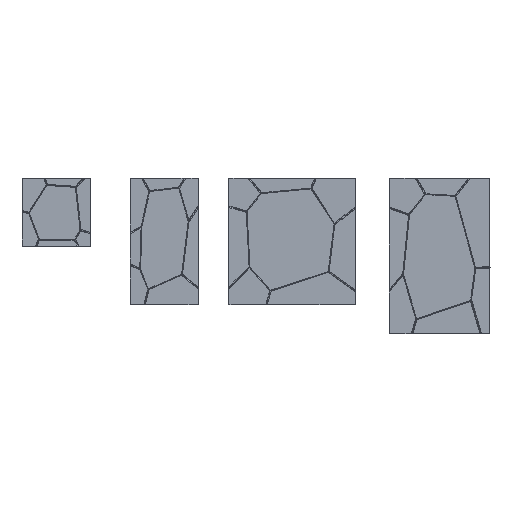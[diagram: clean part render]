
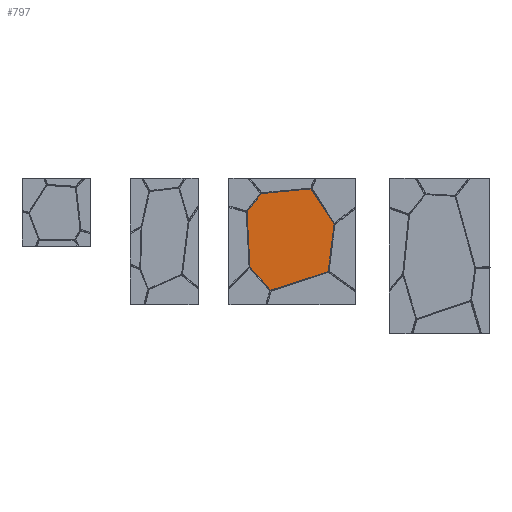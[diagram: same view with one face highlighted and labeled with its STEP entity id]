
A CAD part, top view. The second image highlights one B-rep face of the part: STEP entity #797.
In plain terms, the highlighted planar face has unit normal (0, 0, 1).
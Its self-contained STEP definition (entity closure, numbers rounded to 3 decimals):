
#797=ADVANCED_FACE('',(#1855),#15411,.T.);
#1855=FACE_OUTER_BOUND('',#2915,.T.);
#2915=EDGE_LOOP('',(#5967,#5968,#5969,#5970,#5971,#5972,#5973,#5974,#5975,
#5976,#5977,#5978,#5979,#5980));
#5967=ORIENTED_EDGE('',*,*,#9873,.F.);
#5968=ORIENTED_EDGE('',*,*,#9867,.F.);
#5969=ORIENTED_EDGE('',*,*,#9863,.F.);
#5970=ORIENTED_EDGE('',*,*,#9857,.F.);
#5971=ORIENTED_EDGE('',*,*,#9853,.F.);
#5972=ORIENTED_EDGE('',*,*,#9848,.F.);
#5973=ORIENTED_EDGE('',*,*,#9841,.F.);
#5974=ORIENTED_EDGE('',*,*,#9908,.F.);
#5975=ORIENTED_EDGE('',*,*,#9904,.F.);
#5976=ORIENTED_EDGE('',*,*,#9897,.F.);
#5977=ORIENTED_EDGE('',*,*,#9892,.F.);
#5978=ORIENTED_EDGE('',*,*,#9887,.F.);
#5979=ORIENTED_EDGE('',*,*,#9881,.F.);
#5980=ORIENTED_EDGE('',*,*,#9877,.F.);
#9841=EDGE_CURVE('',#14492,#14495,#13070,.T.);
#9848=EDGE_CURVE('',#14495,#14496,#11746,.T.);
#9853=EDGE_CURVE('',#14496,#14489,#13072,.T.);
#9857=EDGE_CURVE('',#14489,#14490,#11753,.T.);
#9863=EDGE_CURVE('',#14490,#14498,#13074,.T.);
#9867=EDGE_CURVE('',#14498,#14493,#11761,.T.);
#9873=EDGE_CURVE('',#14493,#14487,#13076,.T.);
#9877=EDGE_CURVE('',#14487,#14488,#11769,.T.);
#9881=EDGE_CURVE('',#14488,#14500,#13078,.T.);
#9887=EDGE_CURVE('',#14500,#14499,#11777,.T.);
#9892=EDGE_CURVE('',#14499,#14497,#13080,.T.);
#9897=EDGE_CURVE('',#14497,#14494,#11785,.T.);
#9904=EDGE_CURVE('',#14494,#14491,#13082,.T.);
#9908=EDGE_CURVE('',#14491,#14492,#11794,.T.);
#11746=B_SPLINE_CURVE_WITH_KNOTS('',1,(#32481,#32482),.UNSPECIFIED.,.F.,
 .F.,(2,2),(0.,637.981),.UNSPECIFIED.);
#11753=B_SPLINE_CURVE_WITH_KNOTS('',1,(#32501,#32502),.UNSPECIFIED.,.F.,
 .F.,(2,2),(0.,728.837),.UNSPECIFIED.);
#11761=B_SPLINE_CURVE_WITH_KNOTS('',1,(#32523,#32524),.UNSPECIFIED.,.F.,
 .F.,(2,2),(0.,921.964),.UNSPECIFIED.);
#11769=B_SPLINE_CURVE_WITH_KNOTS('',1,(#32545,#32546),.UNSPECIFIED.,.F.,
 .F.,(2,2),(0.,470.713),.UNSPECIFIED.);
#11777=B_SPLINE_CURVE_WITH_KNOTS('',1,(#32567,#32568),.UNSPECIFIED.,.F.,
 .F.,(2,2),(0.,843.255),.UNSPECIFIED.);
#11785=B_SPLINE_CURVE_WITH_KNOTS('',1,(#32589,#32590),.UNSPECIFIED.,.F.,
 .F.,(2,2),(0.,349.972),.UNSPECIFIED.);
#11794=B_SPLINE_CURVE_WITH_KNOTS('',1,(#32613,#32614),.UNSPECIFIED.,.F.,
 .F.,(2,2),(0.,761.432),.UNSPECIFIED.);
#13070=(
BOUNDED_CURVE()
B_SPLINE_CURVE(2,(#32465,#32466,#32467),.UNSPECIFIED.,.F.,.F.)
B_SPLINE_CURVE_WITH_KNOTS((3,3),(0.,9.781),.UNSPECIFIED.)
CURVE()
GEOMETRIC_REPRESENTATION_ITEM()
RATIONAL_B_SPLINE_CURVE((1.,0.856,1.))
REPRESENTATION_ITEM('')
);
#13072=(
BOUNDED_CURVE()
B_SPLINE_CURVE(2,(#32491,#32492,#32493),.UNSPECIFIED.,.F.,.F.)
B_SPLINE_CURVE_WITH_KNOTS((3,3),(0.,6.314),.UNSPECIFIED.)
CURVE()
GEOMETRIC_REPRESENTATION_ITEM()
RATIONAL_B_SPLINE_CURVE((1.,0.939,1.))
REPRESENTATION_ITEM('')
);
#13074=(
BOUNDED_CURVE()
B_SPLINE_CURVE(2,(#32513,#32514,#32515),.UNSPECIFIED.,.F.,.F.)
B_SPLINE_CURVE_WITH_KNOTS((3,3),(0.,10.195),.UNSPECIFIED.)
CURVE()
GEOMETRIC_REPRESENTATION_ITEM()
RATIONAL_B_SPLINE_CURVE((1.,0.844,1.))
REPRESENTATION_ITEM('')
);
#13076=(
BOUNDED_CURVE()
B_SPLINE_CURVE(2,(#32535,#32536,#32537),.UNSPECIFIED.,.F.,.F.)
B_SPLINE_CURVE_WITH_KNOTS((3,3),(0.,10.477),.UNSPECIFIED.)
CURVE()
GEOMETRIC_REPRESENTATION_ITEM()
RATIONAL_B_SPLINE_CURVE((1.,0.835,1.))
REPRESENTATION_ITEM('')
);
#13078=(
BOUNDED_CURVE()
B_SPLINE_CURVE(2,(#32553,#32554,#32555),.UNSPECIFIED.,.F.,.F.)
B_SPLINE_CURVE_WITH_KNOTS((3,3),(0.,6.012),.UNSPECIFIED.)
CURVE()
GEOMETRIC_REPRESENTATION_ITEM()
RATIONAL_B_SPLINE_CURVE((1.,0.945,1.))
REPRESENTATION_ITEM('')
);
#13080=(
BOUNDED_CURVE()
B_SPLINE_CURVE(2,(#32577,#32578,#32579),.UNSPECIFIED.,.F.,.F.)
B_SPLINE_CURVE_WITH_KNOTS((3,3),(0.,6.451),.UNSPECIFIED.)
CURVE()
GEOMETRIC_REPRESENTATION_ITEM()
RATIONAL_B_SPLINE_CURVE((1.,0.936,1.))
REPRESENTATION_ITEM('')
);
#13082=(
BOUNDED_CURVE()
B_SPLINE_CURVE(2,(#32603,#32604,#32605),.UNSPECIFIED.,.F.,.F.)
B_SPLINE_CURVE_WITH_KNOTS((3,3),(0.,7.319),
 .UNSPECIFIED.)
CURVE()
GEOMETRIC_REPRESENTATION_ITEM()
RATIONAL_B_SPLINE_CURVE((1.,0.918,1.))
REPRESENTATION_ITEM('')
);
#14487=VERTEX_POINT('',#32367);
#14488=VERTEX_POINT('',#32368);
#14489=VERTEX_POINT('',#32369);
#14490=VERTEX_POINT('',#32370);
#14491=VERTEX_POINT('',#32371);
#14492=VERTEX_POINT('',#32372);
#14493=VERTEX_POINT('',#32373);
#14494=VERTEX_POINT('',#32374);
#14495=VERTEX_POINT('',#32375);
#14496=VERTEX_POINT('',#32376);
#14497=VERTEX_POINT('',#32377);
#14498=VERTEX_POINT('',#32378);
#14499=VERTEX_POINT('',#32379);
#14500=VERTEX_POINT('',#32380);
#15411=PLANE('',#16488);
#16488=AXIS2_PLACEMENT_3D('',#32239,#16804,$);
#16804=DIRECTION('',(0.,0.,1.));
#32239=CARTESIAN_POINT('',(5248.597,-410.843,0.));
#32367=CARTESIAN_POINT('',(3831.12,-672.852,0.));
#32368=CARTESIAN_POINT('',(3520.329,-319.327,0.));
#32369=CARTESIAN_POINT('',(4813.388,340.417,0.));
#32370=CARTESIAN_POINT('',(4723.569,-382.864,0.));
#32371=CARTESIAN_POINT('',(3696.956,813.348,0.));
#32372=CARTESIAN_POINT('',(4455.026,884.816,0.));
#32373=CARTESIAN_POINT('',(3840.663,-675.468,0.));
#32374=CARTESIAN_POINT('',(3690.71,809.931,0.));
#32375=CARTESIAN_POINT('',(4463.409,880.773,0.));
#32376=CARTESIAN_POINT('',(4811.995,346.444,0.));
#32377=CARTESIAN_POINT('',(3475.154,534.22,0.));
#32378=CARTESIAN_POINT('',(4717.421,-390.313,0.));
#32379=CARTESIAN_POINT('',(3473.257,528.198,0.));
#32380=CARTESIAN_POINT('',(3518.101,-313.864,0.));
#32465=CARTESIAN_POINT('',(4455.026,884.816,0.));
#32466=CARTESIAN_POINT('',(4460.438,885.326,0.));
#32467=CARTESIAN_POINT('',(4463.409,880.773,0.));
#32481=CARTESIAN_POINT('',(4463.409,880.773,0.));
#32482=CARTESIAN_POINT('',(4811.995,346.444,0.));
#32491=CARTESIAN_POINT('',(4811.995,346.444,0.));
#32492=CARTESIAN_POINT('',(4813.794,343.686,0.));
#32493=CARTESIAN_POINT('',(4813.388,340.417,0.));
#32501=CARTESIAN_POINT('',(4813.388,340.417,0.));
#32502=CARTESIAN_POINT('',(4723.569,-382.864,0.));
#32513=CARTESIAN_POINT('',(4723.569,-382.864,0.));
#32514=CARTESIAN_POINT('',(4722.864,-388.543,0.));
#32515=CARTESIAN_POINT('',(4717.421,-390.313,0.));
#32523=CARTESIAN_POINT('',(4717.421,-390.313,0.));
#32524=CARTESIAN_POINT('',(3840.663,-675.468,0.));
#32535=CARTESIAN_POINT('',(3840.663,-675.468,0.));
#32536=CARTESIAN_POINT('',(3835.031,-677.3,0.));
#32537=CARTESIAN_POINT('',(3831.12,-672.852,0.));
#32545=CARTESIAN_POINT('',(3831.12,-672.852,0.));
#32546=CARTESIAN_POINT('',(3520.329,-319.327,0.));
#32553=CARTESIAN_POINT('',(3520.329,-319.327,0.));
#32554=CARTESIAN_POINT('',(3518.267,-316.982,0.));
#32555=CARTESIAN_POINT('',(3518.101,-313.864,0.));
#32567=CARTESIAN_POINT('',(3518.101,-313.864,0.));
#32568=CARTESIAN_POINT('',(3473.257,528.198,0.));
#32577=CARTESIAN_POINT('',(3473.257,528.198,0.));
#32578=CARTESIAN_POINT('',(3473.078,531.564,0.));
#32579=CARTESIAN_POINT('',(3475.154,534.22,0.));
#32589=CARTESIAN_POINT('',(3475.154,534.22,0.));
#32590=CARTESIAN_POINT('',(3690.71,809.931,0.));
#32603=CARTESIAN_POINT('',(3690.71,809.931,0.));
#32604=CARTESIAN_POINT('',(3693.097,812.984,0.));
#32605=CARTESIAN_POINT('',(3696.956,813.348,0.));
#32613=CARTESIAN_POINT('',(3696.956,813.348,0.));
#32614=CARTESIAN_POINT('',(4455.026,884.816,0.));
